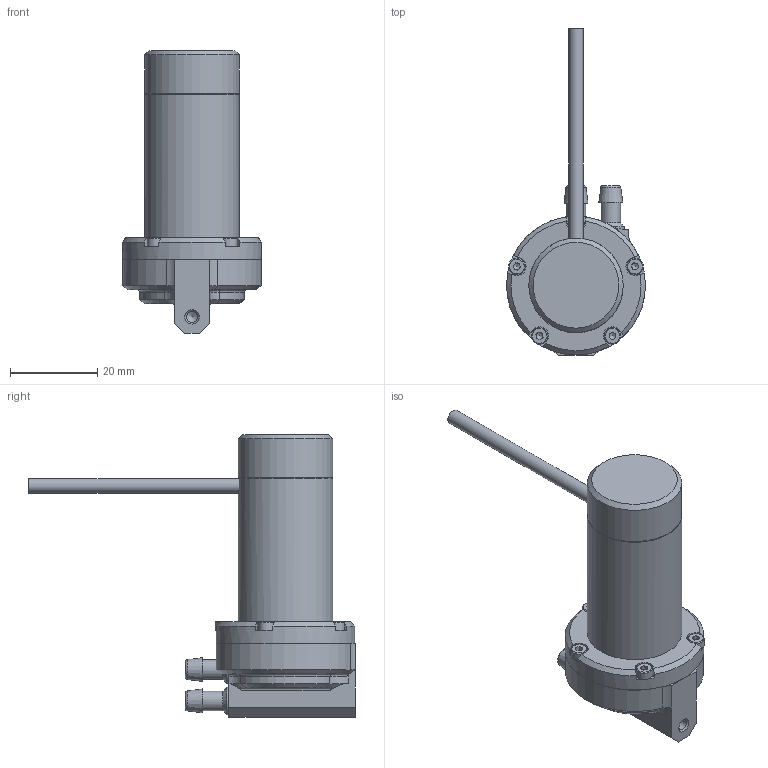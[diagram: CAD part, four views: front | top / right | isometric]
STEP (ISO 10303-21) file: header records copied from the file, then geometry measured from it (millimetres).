
FILE_DESCRIPTION (( 'STEP AP203' ), '1' );
FILE_NAME ('MD450K REV 1.STEP', '2020-06-30T08:31:31', ( '' ), ( '' ), 'SwSTEP 2.0', 'SolidWorks 2016', '' );
FILE_SCHEMA (( 'CONFIG_CONTROL_DESIGN' ));
Length unit declared in the file: millimetre
Products named in the file (9): P-0762; P-1257; P-1256; P-1093; P-0086; MD450K REV 1; E20D-IE_Standard PEEK PLUS SS; P-0084_M2x12 Screw; P-1095
Assembly tree (13 placements, depth 3):
  MD450K REV 1
    E20D-IE_Standard PEEK PLUS SS
      P-1093
      P-1095
      P-0762
    P-0084_M2x12 Screw  x5
    P-1257
    P-1256
    P-0086  x2
Bounding box: 31.9 x 74.99 x 65 mm (x, y, z)
Volume: 10949.2 mm3; surface area: 15465.5 mm2
Topology: 12 solids, 12 shells, 298 faces, 684 edges, 428 vertices
Faces by surface type: plane 145, cylinder 81, cone 57, torus 15
Full cylindrical faces by diameter (mm): 0.6 x3, 1.2 x3, 1.6 x5, 2 x5, 2.1 x5, 2.5 x1, 3.36 x1, 3.5 x2, 3.8 x5, 4.5 x2, 5.3 x2, 5.4 x1, 6.2 x1, 6.3 x2, 6.35 x2, 18.7 x1, 20.1 x1, 20.2 x1, 21.7 x2, 22.2 x1, 24.024 x1, 25 x1, 26.2 x1, 31.9 x1
Entity records: 6776 total; most frequent: CARTESIAN_POINT 1283, DIRECTION 980, ORIENTED_EDGE 786, AXIS2_PLACEMENT_3D 412, EDGE_CURVE 393, EDGE_LOOP 300, VERTEX_POINT 285, FACE_OUTER_BOUND 244
